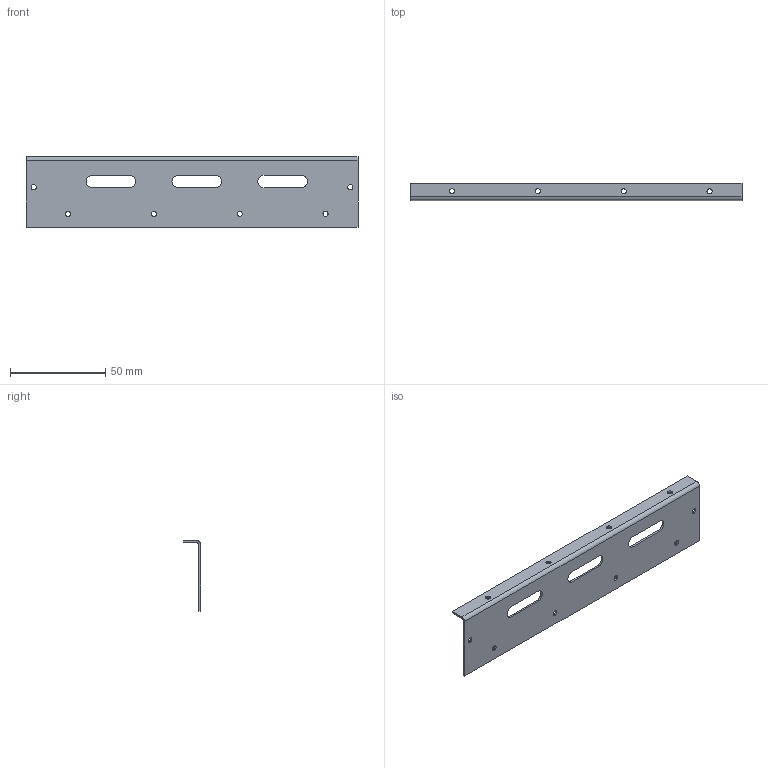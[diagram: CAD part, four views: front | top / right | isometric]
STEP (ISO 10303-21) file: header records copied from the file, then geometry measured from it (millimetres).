
FILE_DESCRIPTION(/* description */ (''),/* implementation_level */ '2;1');
FILE_NAME(/* name */ 'PDB-01-102_Left_Side_Rail_R01.step',/* time_stamp */ '2026-11-24T01:50:36+05:00',/* author */ (''),/* organization */ (''),/* preprocessor_version */ 'ST-DEVELOPER v20.2',/* originating_system */ 'Autodesk Translation Framework v15.17.0.0',/* authorisation */ '');
FILE_SCHEMA (('AUTOMOTIVE_DESIGN { 1 0 10303 214 3 1 1 }'));
Length unit declared in the file: centimetre
Products named in the file (1): 2026-11-24-01-50-36-554
Bounding box: 174 x 9 x 37 mm (x, y, z)
Volume: 7180.9 mm3; surface area: 15061.6 mm2
Topology: 1 solids, 1 shells, 36 faces, 94 edges, 60 vertices
Faces by surface type: cylinder 18, plane 18
Full cylindrical faces by diameter (mm): 2.7 x10
Entity records: 1195 total; most frequent: DIRECTION 204, CARTESIAN_POINT 191, ORIENTED_EDGE 188, EDGE_CURVE 94, AXIS2_PLACEMENT_3D 73, EDGE_LOOP 62, VERTEX_POINT 60, LINE 58
